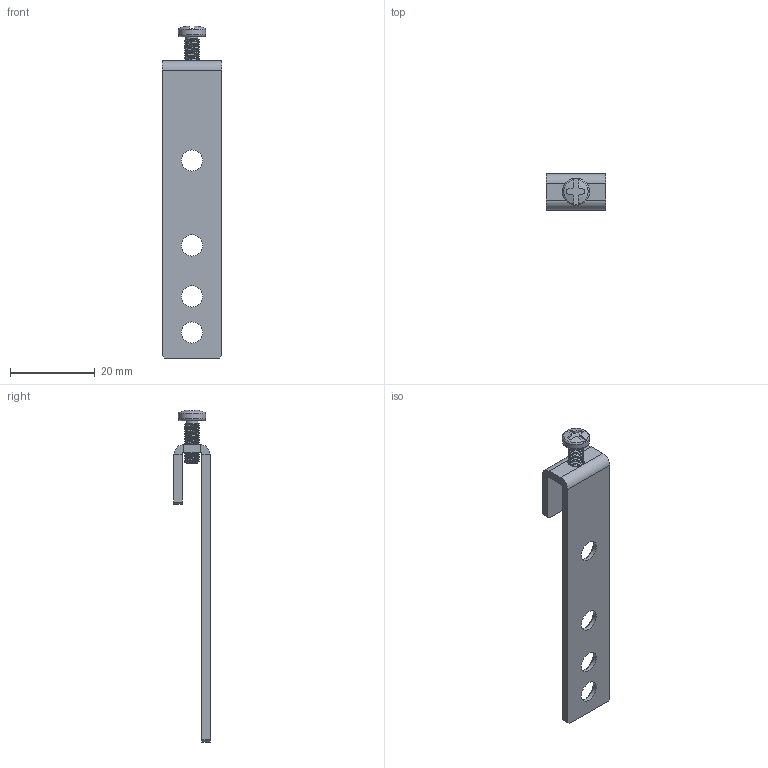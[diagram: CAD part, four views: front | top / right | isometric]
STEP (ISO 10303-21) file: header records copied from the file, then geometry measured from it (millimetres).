
FILE_DESCRIPTION(/* description */ (''),/* implementation_level */ '2;1');
FILE_NAME(/* name */ 'C:\Users\dmitruk\Documents\WORK\Навесы\Навес Indaux.stp',/* time_stamp */ '2022-04-25T10:31:00+03:00',/* author */ ('dmitruk'),/* organization */ (''),/* preprocessor_version */ 'ST-DEVELOPER v16.5',/* originating_system */ 'Autodesk Inventor 2017',/* authorisation */ '');
FILE_SCHEMA (('AUTOMOTIVE_DESIGN { 1 0 10303 214 3 1 1 }'));
Length unit declared in the file: millimetre
Products named in the file (1): Навес Indoux
Bounding box: 14 x 8.5 x 78.17 mm (x, y, z)
Volume: 2251.6 mm3; surface area: 3201.9 mm2
Topology: 3 solids, 3 shells, 59 faces, 135 edges, 82 vertices
Faces by surface type: plane 37, cylinder 12, cone 4, bspline 2, torus 2, sphere 2
Full cylindrical faces by diameter (mm): 2.8 x1, 3.8 x1, 5 x4, 6.4 x1
Entity records: 3088 total; most frequent: CARTESIAN_POINT 1750, DIRECTION 278, ORIENTED_EDGE 244, EDGE_CURVE 121, AXIS2_PLACEMENT_3D 103, EDGE_LOOP 83, VERTEX_POINT 81, LINE 72
